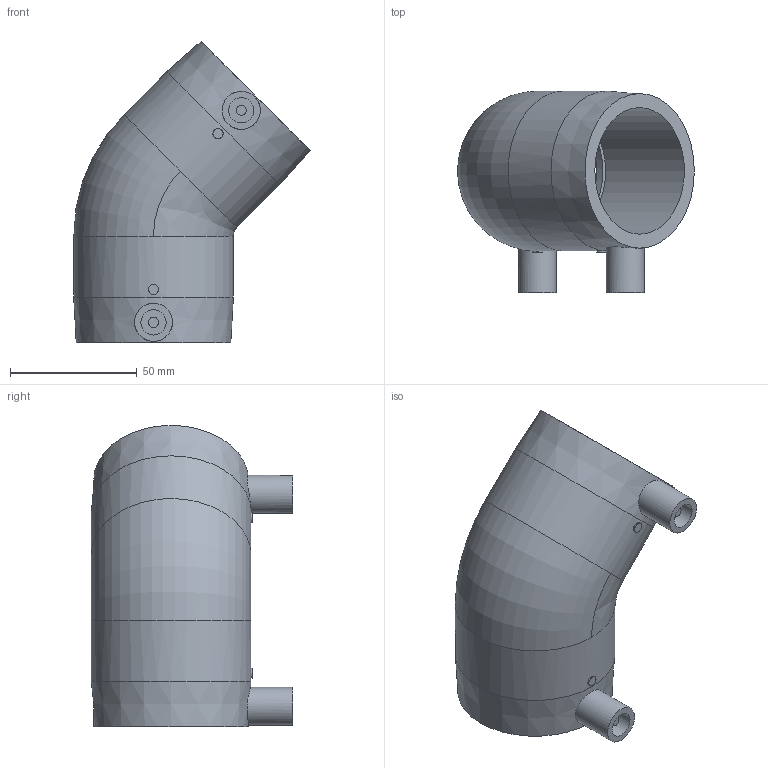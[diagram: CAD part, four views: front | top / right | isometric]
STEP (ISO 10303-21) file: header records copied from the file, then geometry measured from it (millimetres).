
FILE_DESCRIPTION(/* description */ ('Unknown'),/* implementation_level */ '2;1');
FILE_NAME(/* name */ 'GE4P050C',/* time_stamp */ '2021-01-25T14:32:40+01:00',/* author */ ('Unknown'),/* organization */ ('Unknown'),/* preprocessor_version */ 'ST-DEVELOPER v16.7',/* originating_system */ 'Solid Edge',/* authorisation */ 'Unknown');
FILE_SCHEMA (('AUTOMOTIVE_DESIGN {1 0 10303 214 3 1 1}'));
Length unit declared in the file: millimetre
Products named in the file (1): GE4P050C
Bounding box: 93.37 x 79.5 x 118.87 mm (x, y, z)
Volume: 135954.3 mm3; surface area: 45061.4 mm2
Topology: 1 solids, 1 shells, 31 faces, 62 edges, 42 vertices
Faces by surface type: cylinder 14, plane 12, cone 2, torus 2, bspline 1
Full cylindrical faces by diameter (mm): 4 x4, 10 x2, 15 x2, 50 x2, 63 x2
Entity records: 1081 total; most frequent: CARTESIAN_POINT 492, DIRECTION 120, ORIENTED_EDGE 82, AXIS2_PLACEMENT_3D 60, EDGE_LOOP 57, FACE_BOUND 57, EDGE_CURVE 41, VERTEX_POINT 36
